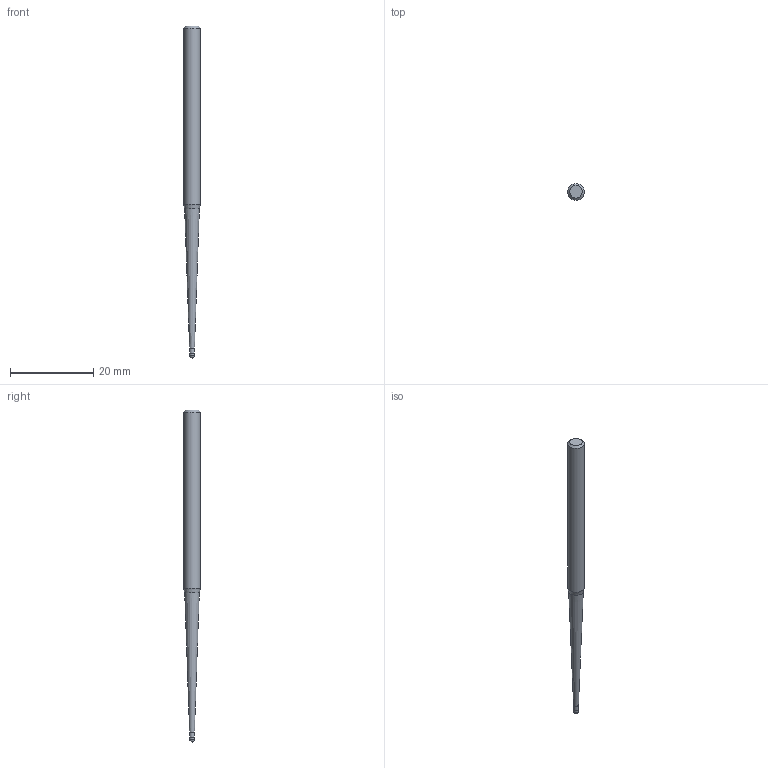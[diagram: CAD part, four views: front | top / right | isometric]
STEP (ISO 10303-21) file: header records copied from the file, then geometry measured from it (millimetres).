
FILE_DESCRIPTION((''),'2;1');
FILE_NAME('C:\Users\nsx150\AppData\Local\Temp\Mastercam 2021\SNAKH10GOD\TEMP.step','2021-10-21T13:32:42',(''),(''),'STEP Write','Mastercam 2021 ... CNC Software, Inc.','');
FILE_SCHEMA(('AUTOMOTIVE_DESIGN'));
Length unit declared in the file: millimetre
Products named in the file (1): None
Bounding box: 4 x 4 x 80 mm (x, y, z)
Volume: 712.7 mm3; surface area: 822.3 mm2
Topology: 2 solids, 2 shells, 10 faces, 16 edges, 9 vertices
Faces by surface type: plane 3, cylinder 3, cone 3, sphere 1
Full cylindrical faces by diameter (mm): 1.185 x1, 1.2 x1, 4 x1
Entity records: 232 total; most frequent: DIRECTION 40, CARTESIAN_POINT 28, AXIS2_PLACEMENT_3D 20, ORIENTED_EDGE 16, EDGE_LOOP 16, STYLED_ITEM 13, ADVANCED_FACE 10, FACE_BOUND 9
